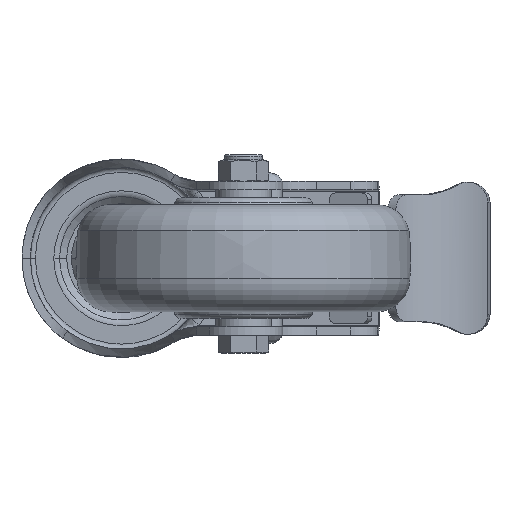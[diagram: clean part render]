
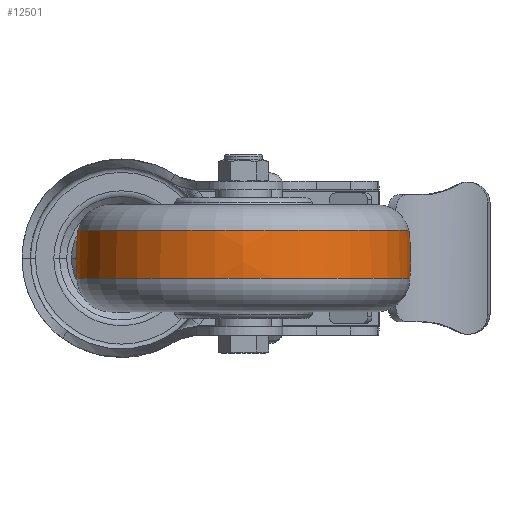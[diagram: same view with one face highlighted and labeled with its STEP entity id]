
A CAD part, front view. The second image highlights one B-rep face of the part: STEP entity #12501.
In plain terms, the highlighted free-form (B-spline) face has degree [3, 3] with [7, 4] control points.
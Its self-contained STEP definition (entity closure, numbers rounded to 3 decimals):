
#11886=CARTESIAN_POINT('',(-6.012,0.,0.));
#11887=DIRECTION('',(-1.,0.,0.));
#11888=DIRECTION('',(0.,1.,0.));
#11889=AXIS2_PLACEMENT_3D('',#11886,#11887,#11888);
#11901=CARTESIAN_POINT('',(0.,-11.437,0.));
#11902=DIRECTION('',(0.,0.,1.));
#11903=DIRECTION('',(0.135,0.991,0.));
#11904=AXIS2_PLACEMENT_3D('',#11901,#11902,#11903);
#11906=CARTESIAN_POINT('',(0.,11.437,0.));
#11907=DIRECTION('',(0.,0.,-1.));
#11908=DIRECTION('',(0.135,-0.991,0.));
#11909=AXIS2_PLACEMENT_3D('',#11906,#11907,#11908);
#11911=CARTESIAN_POINT('',(8.303,0.,0.));
#11912=DIRECTION('',(-1.,0.,0.));
#11913=DIRECTION('',(0.,1.,0.));
#11914=AXIS2_PLACEMENT_3D('',#11911,#11912,#11913);
#12126=CARTESIAN_POINT('',(-6.012,49.697,0.));
#12128=VERTEX_POINT('',#12126);
#12130=CARTESIAN_POINT('',(-6.012,-49.697,
0.));
#12132=VERTEX_POINT('',#12130);
#12159=CARTESIAN_POINT('',(8.303,49.428,0.));
#12161=VERTEX_POINT('',#12159);
#12163=CARTESIAN_POINT('',(8.303,-49.428,
0.));
#12165=VERTEX_POINT('',#12163);
#12465=CARTESIAN_POINT('',(-6.298,-49.57,
3.119));
#12466=CARTESIAN_POINT('',(-1.337,-50.08,
3.151));
#12467=CARTESIAN_POINT('',(3.649,-49.987,
3.145));
#12468=CARTESIAN_POINT('',(8.587,-49.291,
3.101));
#12469=CARTESIAN_POINT('',(-6.298,-51.489,
-27.387));
#12470=CARTESIAN_POINT('',(-1.337,-52.019,
-27.668));
#12471=CARTESIAN_POINT('',(3.649,-51.922,
-27.617));
#12472=CARTESIAN_POINT('',(8.587,-51.199,
-27.232));
#12473=CARTESIAN_POINT('',(-6.298,-30.566,
-49.668));
#12474=CARTESIAN_POINT('',(-1.337,-30.88,
-50.179));
#12475=CARTESIAN_POINT('',(3.649,-30.823,
-50.085));
#12476=CARTESIAN_POINT('',(8.587,-30.393,
-49.388));
#12477=CARTESIAN_POINT('',(-6.298,0.,-49.668));
#12478=CARTESIAN_POINT('',(-1.337,0.,-50.179));
#12479=CARTESIAN_POINT('',(3.649,0.,
-50.085));
#12480=CARTESIAN_POINT('',(8.587,0.,-49.388));
#12481=CARTESIAN_POINT('',(-6.298,30.566,
-49.668));
#12482=CARTESIAN_POINT('',(-1.337,30.88,
-50.179));
#12483=CARTESIAN_POINT('',(3.649,30.823,
-50.085));
#12484=CARTESIAN_POINT('',(8.587,30.393,
-49.388));
#12485=CARTESIAN_POINT('',(-6.298,51.489,
-27.387));
#12486=CARTESIAN_POINT('',(-1.337,52.019,
-27.668));
#12487=CARTESIAN_POINT('',(3.649,51.922,
-27.617));
#12488=CARTESIAN_POINT('',(8.587,51.199,
-27.232));
#12489=CARTESIAN_POINT('',(-6.298,49.57,
3.119));
#12490=CARTESIAN_POINT('',(-1.337,50.08,
3.151));
#12491=CARTESIAN_POINT('',(3.649,49.987,3.145));
#12492=CARTESIAN_POINT('',(8.587,49.291,3.101));
#12493=(BOUNDED_SURFACE()B_SPLINE_SURFACE(3,3,((#12465,#12466,#12467,#12468),(
#12469,#12470,#12471,#12472),(#12473,#12474,#12475,#12476),(#12477,#12478,
#12479,#12480),(#12481,#12482,#12483,#12484),(#12485,#12486,#12487,#12488),(
#12489,#12490,#12491,#12492)),.UNSPECIFIED.,.F.,.F.,.F.)B_SPLINE_SURFACE_WITH_KNOTS((4,3,4),(4,4),(0.,1.,2.),(0.,1.),.UNSPECIFIED.)GEOMETRIC_REPRESENTATION_ITEM()RATIONAL_B_SPLINE_SURFACE(((1.192,1.186,
1.186,1.192),(0.941,0.936,
0.936,0.941),(0.941,0.936,
0.936,0.941),(1.192,1.186,
1.186,1.192),(0.941,0.936,
0.936,0.941),(0.941,0.936,
0.936,0.941),(1.192,1.186,
1.186,1.192)))REPRESENTATION_ITEM('')SURFACE());
#12494=ORIENTED_EDGE('',*,*,#12455,.T.);
#12495=ORIENTED_EDGE('',*,*,#12408,.T.);
#12496=ORIENTED_EDGE('',*,*,#12459,.F.);
#12498=ORIENTED_EDGE('',*,*,#12497,.F.);
#12499=EDGE_LOOP('',(#12494,#12495,#12496,#12498));
#12500=FACE_OUTER_BOUND('',#12499,.F.);
#11890=CIRCLE('',#11889,49.697);
#11905=CIRCLE('',#11904,61.429);
#11910=CIRCLE('',#11909,61.429);
#11915=CIRCLE('',#11914,49.428);
#12408=EDGE_CURVE('',#12128,#12132,#11890,.T.);
#12455=EDGE_CURVE('',#12161,#12128,#11905,.T.);
#12459=EDGE_CURVE('',#12165,#12132,#11910,.T.);
#12497=EDGE_CURVE('',#12161,#12165,#11915,.T.);
#12501=ADVANCED_FACE('',(#12500),#12493,.T.);
